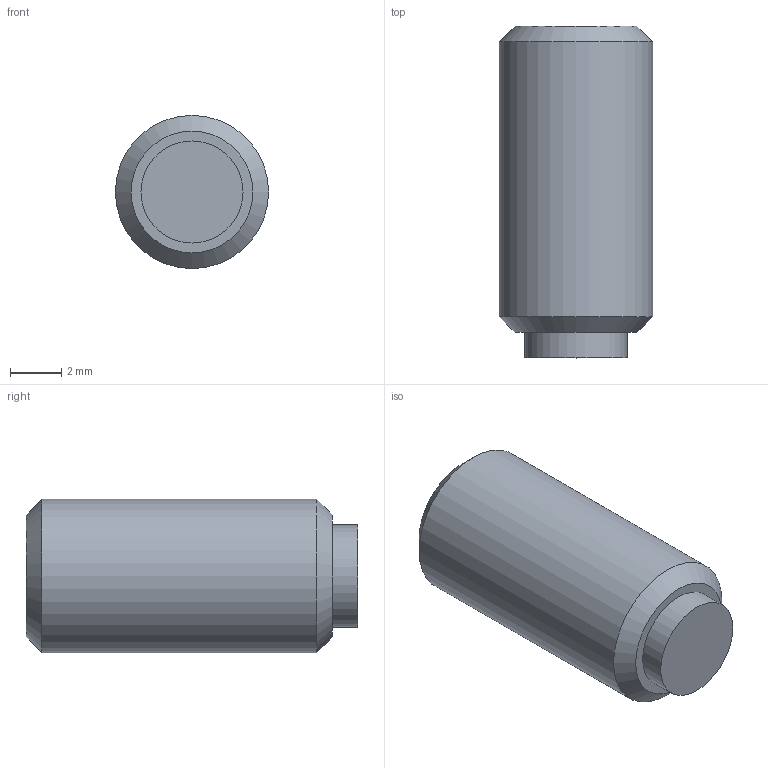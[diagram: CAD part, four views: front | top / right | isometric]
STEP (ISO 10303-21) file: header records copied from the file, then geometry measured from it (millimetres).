
FILE_DESCRIPTION( ( 'STEP AP203' ), '1' );
FILE_NAME( 'C:/Temp/Ganter_Step_05_03_2020/data/3_2/gn913_3/Grub screw GN 913.3-M6-12-MS.stp', '2020-03-13T05:35:48', ( 'License CC BY-ND 4.0' ), ( 'CADENAS' ), ' ', 'PARTsolutions', ' ' );
FILE_SCHEMA( ( 'CONFIG_CONTROL_DESIGN' ) );
Length unit declared in the file: millimetre
Products named in the file (1): _Grub screw GN 913.3-M6-12-MS
Bounding box: 6 x 13 x 6 mm (x, y, z)
Volume: 318 mm3; surface area: 317.2 mm2
Topology: 1 solids, 1 shells, 14 faces, 28 edges, 18 vertices
Faces by surface type: plane 10, cylinder 2, cone 2
Full cylindrical faces by diameter (mm): 4 x1, 6 x1
Entity records: 386 total; most frequent: DIRECTION 60, CARTESIAN_POINT 57, ORIENTED_EDGE 48, EDGE_CURVE 24, AXIS2_PLACEMENT_3D 21, EDGE_LOOP 20, VERTEX_POINT 18, LINE 18
